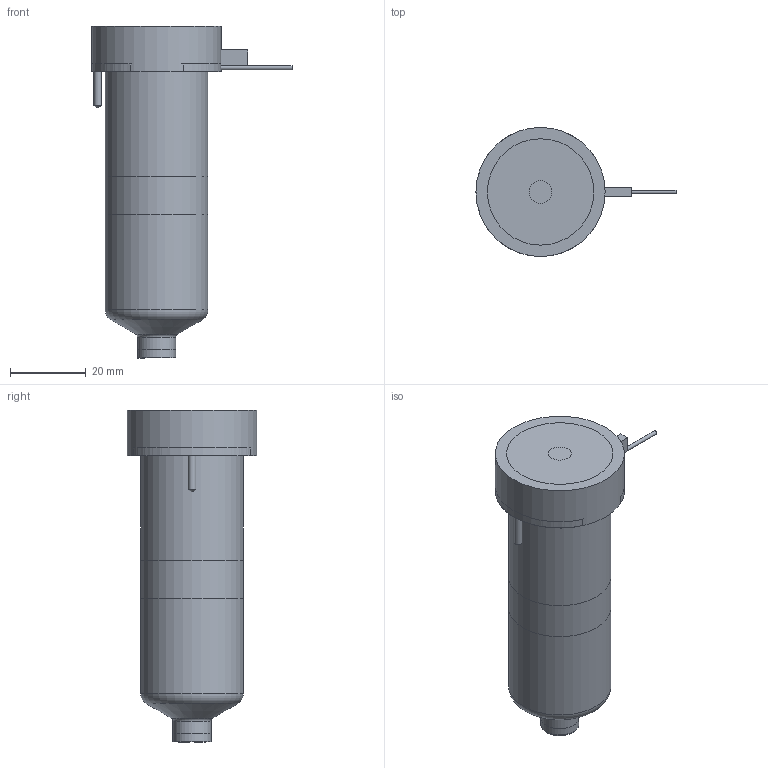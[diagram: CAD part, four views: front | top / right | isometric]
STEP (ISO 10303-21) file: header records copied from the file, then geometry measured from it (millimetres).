
FILE_DESCRIPTION(/* description */ (''),/* implementation_level */ '2;1');
FILE_NAME(/* name */ 'BXTBN-BXIBN-BXOBN13075_200C_b',/* time_stamp */ '2007-01-18T09:57:50+13:00',/* author */ (''),/* organization */ (''),/* preprocessor_version */ 'ST-DEVELOPER v9',/* originating_system */ 'UGS - NX 4.0',/* authorisation */ '');
FILE_SCHEMA (('CONFIG_CONTROL_DESIGN'));
Length unit declared in the file: millimetre
Products named in the file (1): BXTBN-BXIBN-BXOBN13075_200C_b
Bounding box: 52.65 x 34 x 87.4 mm (x, y, z)
Volume: 91382 mm3; surface area: 19643.3 mm2
Topology: 6 solids, 6 shells, 73 faces, 141 edges, 91 vertices
Faces by surface type: plane 34, cylinder 23, cone 8, torus 7, bspline 1
Full cylindrical faces by diameter (mm): 0.9 x1, 1 x3, 2 x2, 6 x1, 9.61 x1, 10.01 x2, 12.6 x1, 22.2 x1, 27 x2, 34 x1
Entity records: 1806 total; most frequent: CARTESIAN_POINT 357, DIRECTION 304, ORIENTED_EDGE 210, AXIS2_PLACEMENT_3D 134, EDGE_LOOP 112, EDGE_CURVE 105, VERTEX_POINT 84, ADVANCED_FACE 73
